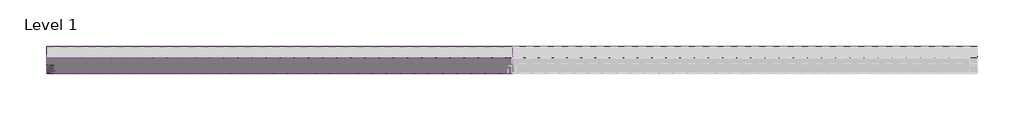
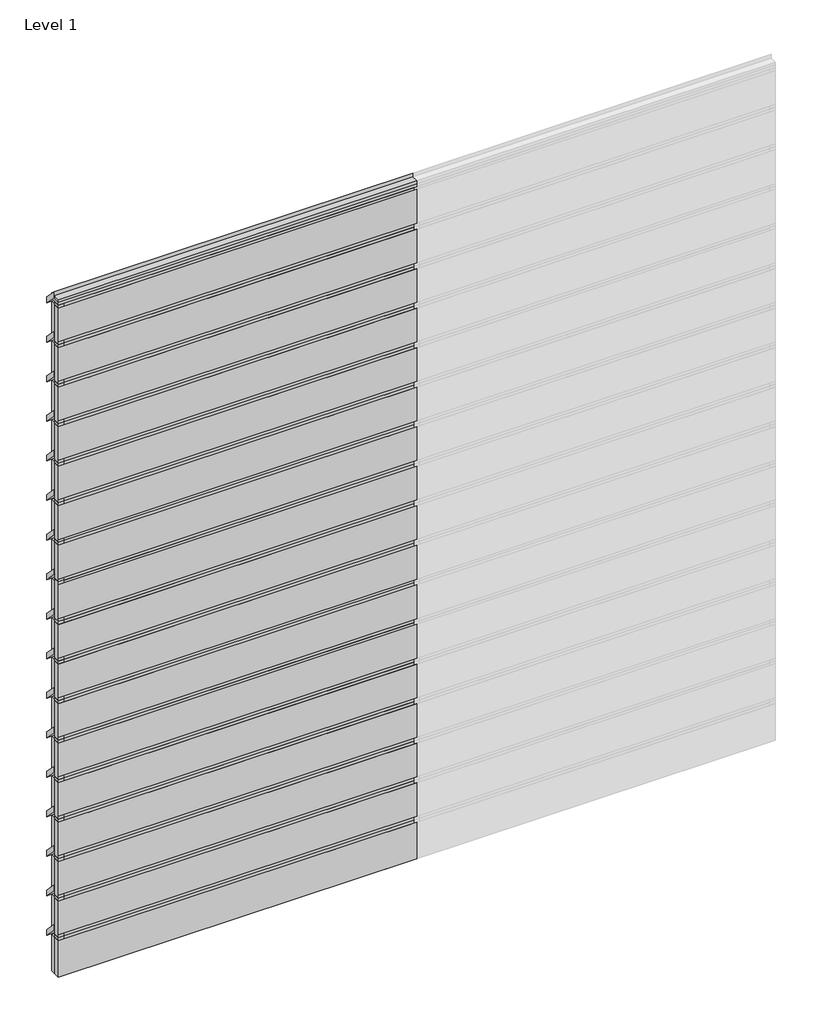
# One storey, part 1 of 2: 42 members, 36 plates.
"""IFC4 building model written with IfcOpenShell, lengths in millimetres."""

from ifc_helpers import new_model, si_unit, origin, place, context, project, spatial, transform, mapped, element, save
from components import rectangular_mullion_321bab66, rectangular_mullion_795f5a7c, empty_system_panel_empty_eb7023d6, empty_system_panel_empty_e21ca438, empty_system_panel_empty_ca83fffd, empty_system_panel_empty_a0d4dec4, empty_system_panel_empty_5b0c2a42

model = new_model("IFC4")

# Units and contexts
model_context = context("Model", 3, world=origin())
ifc_project = project(units=[si_unit("LENGTHUNIT", "METRE", prefix="MILLI")], contexts=[model_context])

# Site, building, storey
site = spatial("IfcSite", under=ifc_project)
building = spatial("IfcBuilding", under=site)
storey = spatial("IfcBuildingStorey", under=building, Name="Level 1", Elevation=0.0)

# Members
placement = place(None, origin())
rectangular_mullion_shape = rectangular_mullion_321bab66(model_context)
element("IfcMember", 1, ObjectType="Rectangular Mullion : RSen_21_CWM_blade - linear 200_gen_duco projects", at=placement, inside=storey, context=model_context, shape_type="MappedRepresentation", body=[
    mapped(rectangular_mullion_shape, transform((3000.0, 3000.0, 350.0), x_axis=(0.0, 0.0, 1.0), y_axis=(0.0, 1.0, 0.0), z_axis=(-1.0, 0.0, 0.0))),
])
element("IfcMember", 2, ObjectType="Rectangular Mullion : RSen_21_CWM_blade - linear 200_gen_duco projects", at=placement, inside=storey, context=model_context, shape_type="MappedRepresentation", body=[
    mapped(rectangular_mullion_shape, transform((3000.0, 3000.0, 700.0), x_axis=(0.0, 0.0, 1.0), y_axis=(0.0, 1.0, 0.0), z_axis=(-1.0, 0.0, 0.0))),
])
element("IfcMember", 3, ObjectType="Rectangular Mullion : RSen_21_CWM_blade - linear 200_gen_duco projects", at=placement, inside=storey, context=model_context, shape_type="MappedRepresentation", body=[
    mapped(rectangular_mullion_shape, transform((3000.0, 3000.0, 1050.0), x_axis=(0.0, 0.0, 1.0), y_axis=(0.0, 1.0, 0.0), z_axis=(-1.0, 0.0, 0.0))),
])
element("IfcMember", 4, ObjectType="Rectangular Mullion : RSen_21_CWM_blade - linear 200_gen_duco projects", at=placement, inside=storey, context=model_context, shape_type="MappedRepresentation", body=[
    mapped(rectangular_mullion_shape, transform((3000.0, 3000.0, 1400.0), x_axis=(0.0, 0.0, 1.0), y_axis=(0.0, 1.0, 0.0), z_axis=(-1.0, 0.0, 0.0))),
])
element("IfcMember", 5, ObjectType="Rectangular Mullion : RSen_21_CWM_blade - linear 200_gen_duco projects", at=placement, inside=storey, context=model_context, shape_type="MappedRepresentation", body=[
    mapped(rectangular_mullion_shape, transform((3000.0, 3000.0, 1750.0), x_axis=(0.0, 0.0, 1.0), y_axis=(0.0, 1.0, 0.0), z_axis=(-1.0, 0.0, 0.0))),
])
element("IfcMember", 6, ObjectType="Rectangular Mullion : RSen_21_CWM_blade - linear 200_gen_duco projects", at=placement, inside=storey, context=model_context, shape_type="MappedRepresentation", body=[
    mapped(rectangular_mullion_shape, transform((3000.0, 3000.0, 2100.0), x_axis=(0.0, 0.0, 1.0), y_axis=(0.0, 1.0, 0.0), z_axis=(-1.0, 0.0, 0.0))),
])
element("IfcMember", 7, ObjectType="Rectangular Mullion : RSen_21_CWM_blade - linear 200_gen_duco projects", at=placement, inside=storey, context=model_context, shape_type="MappedRepresentation", body=[
    mapped(rectangular_mullion_shape, transform((3000.0, 3000.0, 2450.0), x_axis=(0.0, 0.0, 1.0), y_axis=(0.0, 1.0, 0.0), z_axis=(-1.0, 0.0, 0.0))),
])
element("IfcMember", 8, ObjectType="Rectangular Mullion : RSen_21_CWM_blade - linear 200_gen_duco projects", at=placement, inside=storey, context=model_context, shape_type="MappedRepresentation", body=[
    mapped(rectangular_mullion_shape, transform((3000.0, 3000.0, 2800.0), x_axis=(0.0, 0.0, 1.0), y_axis=(0.0, 1.0, 0.0), z_axis=(-1.0, 0.0, 0.0))),
])
element("IfcMember", 9, ObjectType="Rectangular Mullion : RSen_21_CWM_blade - linear 200_gen_duco projects", at=placement, inside=storey, context=model_context, shape_type="MappedRepresentation", body=[
    mapped(rectangular_mullion_shape, transform((0.0, 3000.0, 350.0), x_axis=(0.0, 0.0, 1.0), y_axis=(0.0, 1.0, 0.0), z_axis=(-1.0, 0.0, 0.0))),
])
element("IfcMember", 10, ObjectType="Rectangular Mullion : RSen_21_CWM_blade - linear 200_gen_duco projects", at=placement, inside=storey, context=model_context, shape_type="MappedRepresentation", body=[
    mapped(rectangular_mullion_shape, transform((0.0, 3000.0, 700.0), x_axis=(0.0, 0.0, 1.0), y_axis=(0.0, 1.0, 0.0), z_axis=(-1.0, 0.0, 0.0))),
])
element("IfcMember", 11, ObjectType="Rectangular Mullion : RSen_21_CWM_blade - linear 200_gen_duco projects", at=placement, inside=storey, context=model_context, shape_type="MappedRepresentation", body=[
    mapped(rectangular_mullion_shape, transform((0.0, 3000.0, 1050.0), x_axis=(0.0, 0.0, 1.0), y_axis=(0.0, 1.0, 0.0), z_axis=(-1.0, 0.0, 0.0))),
])
element("IfcMember", 12, ObjectType="Rectangular Mullion : RSen_21_CWM_blade - linear 200_gen_duco projects", at=placement, inside=storey, context=model_context, shape_type="MappedRepresentation", body=[
    mapped(rectangular_mullion_shape, transform((0.0, 3000.0, 1400.0), x_axis=(0.0, 0.0, 1.0), y_axis=(0.0, 1.0, 0.0), z_axis=(-1.0, 0.0, 0.0))),
])
element("IfcMember", 13, ObjectType="Rectangular Mullion : RSen_21_CWM_blade - linear 200_gen_duco projects", at=placement, inside=storey, context=model_context, shape_type="MappedRepresentation", body=[
    mapped(rectangular_mullion_shape, transform((0.0, 3000.0, 1750.0), x_axis=(0.0, 0.0, 1.0), y_axis=(0.0, 1.0, 0.0), z_axis=(-1.0, 0.0, 0.0))),
])
element("IfcMember", 14, ObjectType="Rectangular Mullion : RSen_21_CWM_blade - linear 200_gen_duco projects", at=placement, inside=storey, context=model_context, shape_type="MappedRepresentation", body=[
    mapped(rectangular_mullion_shape, transform((0.0, 3000.0, 2100.0), x_axis=(0.0, 0.0, 1.0), y_axis=(0.0, 1.0, 0.0), z_axis=(-1.0, 0.0, 0.0))),
])
element("IfcMember", 15, ObjectType="Rectangular Mullion : RSen_21_CWM_blade - linear 200_gen_duco projects", at=placement, inside=storey, context=model_context, shape_type="MappedRepresentation", body=[
    mapped(rectangular_mullion_shape, transform((0.0, 3000.0, 2450.0), x_axis=(0.0, 0.0, 1.0), y_axis=(0.0, 1.0, 0.0), z_axis=(-1.0, 0.0, 0.0))),
])
element("IfcMember", 16, ObjectType="Rectangular Mullion : RSen_21_CWM_blade - linear 200_gen_duco projects", at=placement, inside=storey, context=model_context, shape_type="MappedRepresentation", body=[
    mapped(rectangular_mullion_shape, transform((0.0, 3000.0, 2800.0), x_axis=(0.0, 0.0, 1.0), y_axis=(0.0, 1.0, 0.0), z_axis=(-1.0, 0.0, 0.0))),
])
element("IfcMember", 17, ObjectType="Rectangular Mullion : RSen_21_CWM_blade - linear 200_gen_duco projects", at=placement, inside=storey, context=model_context, shape_type="MappedRepresentation", body=[
    mapped(rectangular_mullion_shape, transform((0.0, 3000.0, 3150.0), x_axis=(0.0, 0.0, 1.0), y_axis=(0.0, 1.0, 0.0), z_axis=(-1.0, 0.0, 0.0))),
])
element("IfcMember", 18, ObjectType="Rectangular Mullion : RSen_21_CWM_blade - linear 200_gen_duco projects", at=placement, inside=storey, context=model_context, shape_type="MappedRepresentation", body=[
    mapped(rectangular_mullion_shape, transform((0.0, 3000.0, 3500.0), x_axis=(0.0, 0.0, 1.0), y_axis=(0.0, 1.0, 0.0), z_axis=(-1.0, 0.0, 0.0))),
])
element("IfcMember", 19, ObjectType="Rectangular Mullion : RSen_21_CWM_blade - linear 200_gen_duco projects", at=placement, inside=storey, context=model_context, shape_type="MappedRepresentation", body=[
    mapped(rectangular_mullion_shape, transform((0.0, 3000.0, 3850.0), x_axis=(0.0, 0.0, 1.0), y_axis=(0.0, 1.0, 0.0), z_axis=(-1.0, 0.0, 0.0))),
])
element("IfcMember", 20, ObjectType="Rectangular Mullion : RSen_21_CWM_blade - linear 200_gen_duco projects", at=placement, inside=storey, context=model_context, shape_type="MappedRepresentation", body=[
    mapped(rectangular_mullion_shape, transform((0.0, 3000.0, 4200.0), x_axis=(0.0, 0.0, 1.0), y_axis=(0.0, 1.0, 0.0), z_axis=(-1.0, 0.0, 0.0))),
])
element("IfcMember", 21, ObjectType="Rectangular Mullion : RSen_21_CWM_blade - linear 200_gen_duco projects", at=placement, inside=storey, context=model_context, shape_type="MappedRepresentation", body=[
    mapped(rectangular_mullion_shape, transform((0.0, 3000.0, 4550.0), x_axis=(0.0, 0.0, 1.0), y_axis=(0.0, 1.0, 0.0), z_axis=(-1.0, 0.0, 0.0))),
])
element("IfcMember", 22, ObjectType="Rectangular Mullion : RSen_21_CWM_blade - linear 200_gen_duco projects", at=placement, inside=storey, context=model_context, shape_type="MappedRepresentation", body=[
    mapped(rectangular_mullion_shape, transform((0.0, 3000.0, 4900.0), x_axis=(0.0, 0.0, 1.0), y_axis=(0.0, 1.0, 0.0), z_axis=(-1.0, 0.0, 0.0))),
])
element("IfcMember", 23, ObjectType="Rectangular Mullion : RSen_21_CWM_blade - linear 200_gen_duco projects", at=placement, inside=storey, context=model_context, shape_type="MappedRepresentation", body=[
    mapped(rectangular_mullion_shape, transform((0.0, 3000.0, 5250.0), x_axis=(0.0, 0.0, 1.0), y_axis=(0.0, 1.0, 0.0), z_axis=(-1.0, 0.0, 0.0))),
])
element("IfcMember", 24, ObjectType="Rectangular Mullion : RSen_21_CWM_blade - linear 200_gen_duco projects", at=placement, inside=storey, context=model_context, shape_type="MappedRepresentation", body=[
    mapped(rectangular_mullion_shape, transform((0.0, 3000.0, 5600.0), x_axis=(0.0, 0.0, 1.0), y_axis=(0.0, 1.0, 0.0), z_axis=(-1.0, 0.0, 0.0))),
])
element("IfcMember", 25, ObjectType="Rectangular Mullion : RSen_21_CWM_blade - linear 200_gen_duco projects", at=placement, inside=storey, context=model_context, shape_type="MappedRepresentation", body=[
    mapped(rectangular_mullion_shape, transform((0.0, 3000.0, 5950.0), x_axis=(0.0, 0.0, 1.0), y_axis=(0.0, 1.0, 0.0), z_axis=(-1.0, 0.0, 0.0))),
])
rectangular_mullion_2_shape = rectangular_mullion_795f5a7c(model_context)
element("IfcMember", 26, ObjectType="Rectangular Mullion : RSen_21_CWM_support profile 50x50 - left_gen_duco projects", at=placement, inside=storey, context=model_context, shape_type="MappedRepresentation", body=[
    mapped(rectangular_mullion_2_shape, transform((0.0, 3000.0, 0.0), x_axis=(-1.0, 0.0, 0.0), y_axis=(0.0, 1.0, 0.0), z_axis=(0.0, 0.0, -1.0))),
])
element("IfcMember", 27, ObjectType="Rectangular Mullion : RSen_21_CWM_support profile 50x50 - left_gen_duco projects", at=placement, inside=storey, context=model_context, shape_type="MappedRepresentation", body=[
    mapped(rectangular_mullion_2_shape, transform((0.0, 3000.0, 350.0), x_axis=(-1.0, 0.0, 0.0), y_axis=(0.0, 1.0, 0.0), z_axis=(0.0, 0.0, -1.0))),
])
element("IfcMember", 28, ObjectType="Rectangular Mullion : RSen_21_CWM_support profile 50x50 - left_gen_duco projects", at=placement, inside=storey, context=model_context, shape_type="MappedRepresentation", body=[
    mapped(rectangular_mullion_2_shape, transform((0.0, 3000.0, 700.0), x_axis=(-1.0, 0.0, 0.0), y_axis=(0.0, 1.0, 0.0), z_axis=(0.0, 0.0, -1.0))),
])
element("IfcMember", 29, ObjectType="Rectangular Mullion : RSen_21_CWM_support profile 50x50 - left_gen_duco projects", at=placement, inside=storey, context=model_context, shape_type="MappedRepresentation", body=[
    mapped(rectangular_mullion_2_shape, transform((0.0, 3000.0, 1050.0), x_axis=(-1.0, 0.0, 0.0), y_axis=(0.0, 1.0, 0.0), z_axis=(0.0, 0.0, -1.0))),
])
element("IfcMember", 30, ObjectType="Rectangular Mullion : RSen_21_CWM_support profile 50x50 - left_gen_duco projects", at=placement, inside=storey, context=model_context, shape_type="MappedRepresentation", body=[
    mapped(rectangular_mullion_2_shape, transform((0.0, 3000.0, 1400.0), x_axis=(-1.0, 0.0, 0.0), y_axis=(0.0, 1.0, 0.0), z_axis=(0.0, 0.0, -1.0))),
])
element("IfcMember", 31, ObjectType="Rectangular Mullion : RSen_21_CWM_support profile 50x50 - left_gen_duco projects", at=placement, inside=storey, context=model_context, shape_type="MappedRepresentation", body=[
    mapped(rectangular_mullion_2_shape, transform((0.0, 3000.0, 1750.0), x_axis=(-1.0, 0.0, 0.0), y_axis=(0.0, 1.0, 0.0), z_axis=(0.0, 0.0, -1.0))),
])
element("IfcMember", 32, ObjectType="Rectangular Mullion : RSen_21_CWM_support profile 50x50 - left_gen_duco projects", at=placement, inside=storey, context=model_context, shape_type="MappedRepresentation", body=[
    mapped(rectangular_mullion_2_shape, transform((0.0, 3000.0, 2100.0), x_axis=(-1.0, 0.0, 0.0), y_axis=(0.0, 1.0, 0.0), z_axis=(0.0, 0.0, -1.0))),
])
element("IfcMember", 33, ObjectType="Rectangular Mullion : RSen_21_CWM_support profile 50x50 - left_gen_duco projects", at=placement, inside=storey, context=model_context, shape_type="MappedRepresentation", body=[
    mapped(rectangular_mullion_2_shape, transform((0.0, 3000.0, 2450.0), x_axis=(-1.0, 0.0, 0.0), y_axis=(0.0, 1.0, 0.0), z_axis=(0.0, 0.0, -1.0))),
])
element("IfcMember", 34, ObjectType="Rectangular Mullion : RSen_21_CWM_support profile 50x50 - left_gen_duco projects", at=placement, inside=storey, context=model_context, shape_type="MappedRepresentation", body=[
    mapped(rectangular_mullion_2_shape, transform((0.0, 3000.0, 2800.0), x_axis=(-1.0, 0.0, 0.0), y_axis=(0.0, 1.0, 0.0), z_axis=(0.0, 0.0, -1.0))),
])
element("IfcMember", 35, ObjectType="Rectangular Mullion : RSen_21_CWM_support profile 50x50 - left_gen_duco projects", at=placement, inside=storey, context=model_context, shape_type="MappedRepresentation", body=[
    mapped(rectangular_mullion_2_shape, transform((0.0, 3000.0, 3150.0), x_axis=(-1.0, 0.0, 0.0), y_axis=(0.0, 1.0, 0.0), z_axis=(0.0, 0.0, -1.0))),
])
element("IfcMember", 36, ObjectType="Rectangular Mullion : RSen_21_CWM_support profile 50x50 - left_gen_duco projects", at=placement, inside=storey, context=model_context, shape_type="MappedRepresentation", body=[
    mapped(rectangular_mullion_2_shape, transform((0.0, 3000.0, 3500.0), x_axis=(-1.0, 0.0, 0.0), y_axis=(0.0, 1.0, 0.0), z_axis=(0.0, 0.0, -1.0))),
])
element("IfcMember", 37, ObjectType="Rectangular Mullion : RSen_21_CWM_support profile 50x50 - left_gen_duco projects", at=placement, inside=storey, context=model_context, shape_type="MappedRepresentation", body=[
    mapped(rectangular_mullion_2_shape, transform((0.0, 3000.0, 3850.0), x_axis=(-1.0, 0.0, 0.0), y_axis=(0.0, 1.0, 0.0), z_axis=(0.0, 0.0, -1.0))),
])
element("IfcMember", 38, ObjectType="Rectangular Mullion : RSen_21_CWM_support profile 50x50 - left_gen_duco projects", at=placement, inside=storey, context=model_context, shape_type="MappedRepresentation", body=[
    mapped(rectangular_mullion_2_shape, transform((0.0, 3000.0, 4200.0), x_axis=(-1.0, 0.0, 0.0), y_axis=(0.0, 1.0, 0.0), z_axis=(0.0, 0.0, -1.0))),
])
element("IfcMember", 39, ObjectType="Rectangular Mullion : RSen_21_CWM_support profile 50x50 - left_gen_duco projects", at=placement, inside=storey, context=model_context, shape_type="MappedRepresentation", body=[
    mapped(rectangular_mullion_2_shape, transform((0.0, 3000.0, 4550.0), x_axis=(-1.0, 0.0, 0.0), y_axis=(0.0, 1.0, 0.0), z_axis=(0.0, 0.0, -1.0))),
])
element("IfcMember", 40, ObjectType="Rectangular Mullion : RSen_21_CWM_support profile 50x50 - left_gen_duco projects", at=placement, inside=storey, context=model_context, shape_type="MappedRepresentation", body=[
    mapped(rectangular_mullion_2_shape, transform((0.0, 3000.0, 4900.0), x_axis=(-1.0, 0.0, 0.0), y_axis=(0.0, 1.0, 0.0), z_axis=(0.0, 0.0, -1.0))),
])
element("IfcMember", 41, ObjectType="Rectangular Mullion : RSen_21_CWM_support profile 50x50 - left_gen_duco projects", at=placement, inside=storey, context=model_context, shape_type="MappedRepresentation", body=[
    mapped(rectangular_mullion_2_shape, transform((0.0, 3000.0, 5250.0), x_axis=(-1.0, 0.0, 0.0), y_axis=(0.0, 1.0, 0.0), z_axis=(0.0, 0.0, -1.0))),
])
element("IfcMember", 42, ObjectType="Rectangular Mullion : RSen_21_CWM_support profile 50x50 - left_gen_duco projects", at=placement, inside=storey, context=model_context, shape_type="MappedRepresentation", body=[
    mapped(rectangular_mullion_2_shape, transform((0.0, 3000.0, 5600.0), x_axis=(-1.0, 0.0, 0.0), y_axis=(0.0, 1.0, 0.0), z_axis=(0.0, 0.0, -1.0))),
])

# Plates
empty_system_panel_empty_shape = empty_system_panel_empty_eb7023d6(model_context)
element("IfcPlate", 43, ObjectType="Empty System Panel : Empty", at=placement, inside=storey, context=model_context, shape_type="MappedRepresentation", body=[
    mapped(empty_system_panel_empty_shape, transform((1500.0, 3000.0, 5976.1629509), x_axis=(-1.0, 0.0, 0.0), y_axis=(0.0, -1.0, 0.0), z_axis=(0.0, 0.0, 1.0))),
])
empty_system_panel_empty_2_shape = empty_system_panel_empty_e21ca438(model_context)
element("IfcPlate", 44, ObjectType="Empty System Panel : Empty", at=placement, inside=storey, context=model_context, shape_type="MappedRepresentation", body=[
    mapped(empty_system_panel_empty_2_shape, transform((1500.0, 3000.0, 0.0), x_axis=(-1.0, 0.0, 0.0), y_axis=(0.0, -1.0, 0.0), z_axis=(0.0, 0.0, 1.0))),
])
empty_system_panel_empty_3_shape = empty_system_panel_empty_ca83fffd(model_context)
element("IfcPlate", 45, ObjectType="Empty System Panel : Empty", at=placement, inside=storey, context=model_context, shape_type="MappedRepresentation", body=[
    mapped(empty_system_panel_empty_3_shape, transform((1500.0, 3000.0, 376.1629509), x_axis=(-1.0, 0.0, 0.0), y_axis=(0.0, -1.0, 0.0), z_axis=(0.0, 0.0, 1.0))),
])
element("IfcPlate", 46, ObjectType="Empty System Panel : Empty", at=placement, inside=storey, context=model_context, shape_type="MappedRepresentation", body=[
    mapped(empty_system_panel_empty_3_shape, transform((1500.0, 3000.0, 726.1629509), x_axis=(-1.0, 0.0, 0.0), y_axis=(0.0, -1.0, 0.0), z_axis=(0.0, 0.0, 1.0))),
])
element("IfcPlate", 47, ObjectType="Empty System Panel : Empty", at=placement, inside=storey, context=model_context, shape_type="MappedRepresentation", body=[
    mapped(empty_system_panel_empty_3_shape, transform((1500.0, 3000.0, 1076.1629509), x_axis=(-1.0, 0.0, 0.0), y_axis=(0.0, -1.0, 0.0), z_axis=(0.0, 0.0, 1.0))),
])
element("IfcPlate", 48, ObjectType="Empty System Panel : Empty", at=placement, inside=storey, context=model_context, shape_type="MappedRepresentation", body=[
    mapped(empty_system_panel_empty_3_shape, transform((1500.0, 3000.0, 1426.1629509), x_axis=(-1.0, 0.0, 0.0), y_axis=(0.0, -1.0, 0.0), z_axis=(0.0, 0.0, 1.0))),
])
element("IfcPlate", 49, ObjectType="Empty System Panel : Empty", at=placement, inside=storey, context=model_context, shape_type="MappedRepresentation", body=[
    mapped(empty_system_panel_empty_3_shape, transform((1500.0, 3000.0, 1776.1629509), x_axis=(-1.0, 0.0, 0.0), y_axis=(0.0, -1.0, 0.0), z_axis=(0.0, 0.0, 1.0))),
])
element("IfcPlate", 50, ObjectType="Empty System Panel : Empty", at=placement, inside=storey, context=model_context, shape_type="MappedRepresentation", body=[
    mapped(empty_system_panel_empty_3_shape, transform((1500.0, 3000.0, 2126.1629509), x_axis=(-1.0, 0.0, 0.0), y_axis=(0.0, -1.0, 0.0), z_axis=(0.0, 0.0, 1.0))),
])
element("IfcPlate", 51, ObjectType="Empty System Panel : Empty", at=placement, inside=storey, context=model_context, shape_type="MappedRepresentation", body=[
    mapped(empty_system_panel_empty_3_shape, transform((1500.0, 3000.0, 2476.1629509), x_axis=(-1.0, 0.0, 0.0), y_axis=(0.0, -1.0, 0.0), z_axis=(0.0, 0.0, 1.0))),
])
element("IfcPlate", 52, ObjectType="Empty System Panel : Empty", at=placement, inside=storey, context=model_context, shape_type="MappedRepresentation", body=[
    mapped(empty_system_panel_empty_3_shape, transform((1500.0, 3000.0, 2826.1629509), x_axis=(-1.0, 0.0, 0.0), y_axis=(0.0, -1.0, 0.0), z_axis=(0.0, 0.0, 1.0))),
])
element("IfcPlate", 53, ObjectType="Empty System Panel : Empty", at=placement, inside=storey, context=model_context, shape_type="MappedRepresentation", body=[
    mapped(empty_system_panel_empty_3_shape, transform((1500.0, 3000.0, 3176.1629509), x_axis=(-1.0, 0.0, 0.0), y_axis=(0.0, -1.0, 0.0), z_axis=(0.0, 0.0, 1.0))),
])
element("IfcPlate", 54, ObjectType="Empty System Panel : Empty", at=placement, inside=storey, context=model_context, shape_type="MappedRepresentation", body=[
    mapped(empty_system_panel_empty_3_shape, transform((1500.0, 3000.0, 3526.1629509), x_axis=(-1.0, 0.0, 0.0), y_axis=(0.0, -1.0, 0.0), z_axis=(0.0, 0.0, 1.0))),
])
element("IfcPlate", 55, ObjectType="Empty System Panel : Empty", at=placement, inside=storey, context=model_context, shape_type="MappedRepresentation", body=[
    mapped(empty_system_panel_empty_3_shape, transform((1500.0, 3000.0, 3876.1629509), x_axis=(-1.0, 0.0, 0.0), y_axis=(0.0, -1.0, 0.0), z_axis=(0.0, 0.0, 1.0))),
])
element("IfcPlate", 56, ObjectType="Empty System Panel : Empty", at=placement, inside=storey, context=model_context, shape_type="MappedRepresentation", body=[
    mapped(empty_system_panel_empty_3_shape, transform((1500.0, 3000.0, 4226.1629509), x_axis=(-1.0, 0.0, 0.0), y_axis=(0.0, -1.0, 0.0), z_axis=(0.0, 0.0, 1.0))),
])
element("IfcPlate", 57, ObjectType="Empty System Panel : Empty", at=placement, inside=storey, context=model_context, shape_type="MappedRepresentation", body=[
    mapped(empty_system_panel_empty_3_shape, transform((1500.0, 3000.0, 4576.1629509), x_axis=(-1.0, 0.0, 0.0), y_axis=(0.0, -1.0, 0.0), z_axis=(0.0, 0.0, 1.0))),
])
element("IfcPlate", 58, ObjectType="Empty System Panel : Empty", at=placement, inside=storey, context=model_context, shape_type="MappedRepresentation", body=[
    mapped(empty_system_panel_empty_3_shape, transform((1500.0, 3000.0, 4926.1629509), x_axis=(-1.0, 0.0, 0.0), y_axis=(0.0, -1.0, 0.0), z_axis=(0.0, 0.0, 1.0))),
])
element("IfcPlate", 59, ObjectType="Empty System Panel : Empty", at=placement, inside=storey, context=model_context, shape_type="MappedRepresentation", body=[
    mapped(empty_system_panel_empty_3_shape, transform((1500.0, 3000.0, 5276.1629509), x_axis=(-1.0, 0.0, 0.0), y_axis=(0.0, -1.0, 0.0), z_axis=(0.0, 0.0, 1.0))),
])
element("IfcPlate", 60, ObjectType="Empty System Panel : Empty", at=placement, inside=storey, context=model_context, shape_type="MappedRepresentation", body=[
    mapped(empty_system_panel_empty_3_shape, transform((1500.0, 3000.0, 5626.1629509), x_axis=(-1.0, 0.0, 0.0), y_axis=(0.0, -1.0, 0.0), z_axis=(0.0, 0.0, 1.0))),
])
empty_system_panel_empty_4_shape = empty_system_panel_empty_a0d4dec4(model_context)
element("IfcPlate", 61, ObjectType="Empty System Panel : Empty", at=placement, inside=storey, context=model_context, shape_type="MappedRepresentation", body=[
    mapped(empty_system_panel_empty_4_shape, transform((1512.5, 3000.0, 0.0), x_axis=(-1.0, 0.0, 0.0), y_axis=(0.0, -1.0, 0.0), z_axis=(0.0, 0.0, 1.0))),
])
element("IfcPlate", 62, ObjectType="Empty System Panel : Empty", at=placement, inside=storey, context=model_context, shape_type="MappedRepresentation", body=[
    mapped(empty_system_panel_empty_4_shape, transform((1512.5, 3000.0, 350.0), x_axis=(-1.0, 0.0, 0.0), y_axis=(0.0, -1.0, 0.0), z_axis=(0.0, 0.0, 1.0))),
])
element("IfcPlate", 63, ObjectType="Empty System Panel : Empty", at=placement, inside=storey, context=model_context, shape_type="MappedRepresentation", body=[
    mapped(empty_system_panel_empty_4_shape, transform((1512.5, 3000.0, 700.0), x_axis=(-1.0, 0.0, 0.0), y_axis=(0.0, -1.0, 0.0), z_axis=(0.0, 0.0, 1.0))),
])
element("IfcPlate", 64, ObjectType="Empty System Panel : Empty", at=placement, inside=storey, context=model_context, shape_type="MappedRepresentation", body=[
    mapped(empty_system_panel_empty_4_shape, transform((1512.5, 3000.0, 1050.0), x_axis=(-1.0, 0.0, 0.0), y_axis=(0.0, -1.0, 0.0), z_axis=(0.0, 0.0, 1.0))),
])
element("IfcPlate", 65, ObjectType="Empty System Panel : Empty", at=placement, inside=storey, context=model_context, shape_type="MappedRepresentation", body=[
    mapped(empty_system_panel_empty_4_shape, transform((1512.5, 3000.0, 1400.0), x_axis=(-1.0, 0.0, 0.0), y_axis=(0.0, -1.0, 0.0), z_axis=(0.0, 0.0, 1.0))),
])
element("IfcPlate", 66, ObjectType="Empty System Panel : Empty", at=placement, inside=storey, context=model_context, shape_type="MappedRepresentation", body=[
    mapped(empty_system_panel_empty_4_shape, transform((1512.5, 3000.0, 1750.0), x_axis=(-1.0, 0.0, 0.0), y_axis=(0.0, -1.0, 0.0), z_axis=(0.0, 0.0, 1.0))),
])
element("IfcPlate", 67, ObjectType="Empty System Panel : Empty", at=placement, inside=storey, context=model_context, shape_type="MappedRepresentation", body=[
    mapped(empty_system_panel_empty_4_shape, transform((1512.5, 3000.0, 2100.0), x_axis=(-1.0, 0.0, 0.0), y_axis=(0.0, -1.0, 0.0), z_axis=(0.0, 0.0, 1.0))),
])
element("IfcPlate", 68, ObjectType="Empty System Panel : Empty", at=placement, inside=storey, context=model_context, shape_type="MappedRepresentation", body=[
    mapped(empty_system_panel_empty_4_shape, transform((1512.5, 3000.0, 2450.0), x_axis=(-1.0, 0.0, 0.0), y_axis=(0.0, -1.0, 0.0), z_axis=(0.0, 0.0, 1.0))),
])
element("IfcPlate", 69, ObjectType="Empty System Panel : Empty", at=placement, inside=storey, context=model_context, shape_type="MappedRepresentation", body=[
    mapped(empty_system_panel_empty_4_shape, transform((1512.5, 3000.0, 2800.0), x_axis=(-1.0, 0.0, 0.0), y_axis=(0.0, -1.0, 0.0), z_axis=(0.0, 0.0, 1.0))),
])
element("IfcPlate", 70, ObjectType="Empty System Panel : Empty", at=placement, inside=storey, context=model_context, shape_type="MappedRepresentation", body=[
    mapped(empty_system_panel_empty_4_shape, transform((1512.5, 3000.0, 3150.0), x_axis=(-1.0, 0.0, 0.0), y_axis=(0.0, -1.0, 0.0), z_axis=(0.0, 0.0, 1.0))),
])
element("IfcPlate", 71, ObjectType="Empty System Panel : Empty", at=placement, inside=storey, context=model_context, shape_type="MappedRepresentation", body=[
    mapped(empty_system_panel_empty_4_shape, transform((1512.5, 3000.0, 3500.0), x_axis=(-1.0, 0.0, 0.0), y_axis=(0.0, -1.0, 0.0), z_axis=(0.0, 0.0, 1.0))),
])
element("IfcPlate", 72, ObjectType="Empty System Panel : Empty", at=placement, inside=storey, context=model_context, shape_type="MappedRepresentation", body=[
    mapped(empty_system_panel_empty_4_shape, transform((1512.5, 3000.0, 3850.0), x_axis=(-1.0, 0.0, 0.0), y_axis=(0.0, -1.0, 0.0), z_axis=(0.0, 0.0, 1.0))),
])
element("IfcPlate", 73, ObjectType="Empty System Panel : Empty", at=placement, inside=storey, context=model_context, shape_type="MappedRepresentation", body=[
    mapped(empty_system_panel_empty_4_shape, transform((1512.5, 3000.0, 4200.0), x_axis=(-1.0, 0.0, 0.0), y_axis=(0.0, -1.0, 0.0), z_axis=(0.0, 0.0, 1.0))),
])
element("IfcPlate", 74, ObjectType="Empty System Panel : Empty", at=placement, inside=storey, context=model_context, shape_type="MappedRepresentation", body=[
    mapped(empty_system_panel_empty_4_shape, transform((1512.5, 3000.0, 4550.0), x_axis=(-1.0, 0.0, 0.0), y_axis=(0.0, -1.0, 0.0), z_axis=(0.0, 0.0, 1.0))),
])
element("IfcPlate", 75, ObjectType="Empty System Panel : Empty", at=placement, inside=storey, context=model_context, shape_type="MappedRepresentation", body=[
    mapped(empty_system_panel_empty_4_shape, transform((1512.5, 3000.0, 4900.0), x_axis=(-1.0, 0.0, 0.0), y_axis=(0.0, -1.0, 0.0), z_axis=(0.0, 0.0, 1.0))),
])
element("IfcPlate", 76, ObjectType="Empty System Panel : Empty", at=placement, inside=storey, context=model_context, shape_type="MappedRepresentation", body=[
    mapped(empty_system_panel_empty_4_shape, transform((1512.5, 3000.0, 5250.0), x_axis=(-1.0, 0.0, 0.0), y_axis=(0.0, -1.0, 0.0), z_axis=(0.0, 0.0, 1.0))),
])
element("IfcPlate", 77, ObjectType="Empty System Panel : Empty", at=placement, inside=storey, context=model_context, shape_type="MappedRepresentation", body=[
    mapped(empty_system_panel_empty_4_shape, transform((1512.5, 3000.0, 5600.0), x_axis=(-1.0, 0.0, 0.0), y_axis=(0.0, -1.0, 0.0), z_axis=(0.0, 0.0, 1.0))),
])
empty_system_panel_empty_5_shape = empty_system_panel_empty_5b0c2a42(model_context)
element("IfcPlate", 78, ObjectType="Empty System Panel : Empty", at=placement, inside=storey, context=model_context, shape_type="MappedRepresentation", body=[
    mapped(empty_system_panel_empty_5_shape, transform((1500.0, 3000.0, 5950.0), x_axis=(-1.0, 0.0, 0.0), y_axis=(0.0, -1.0, 0.0), z_axis=(0.0, 0.0, 1.0))),
])

save(model, "model.ifc")
